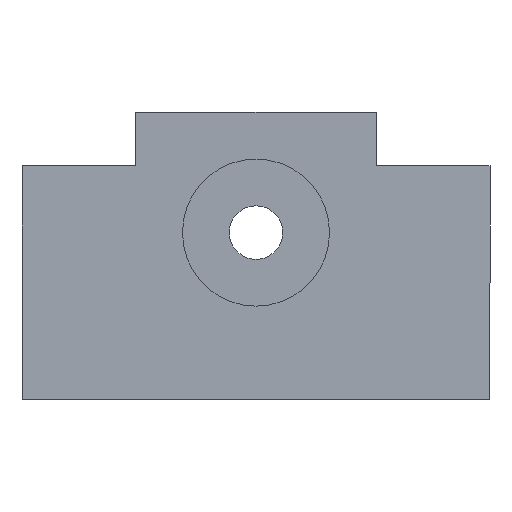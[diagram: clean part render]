
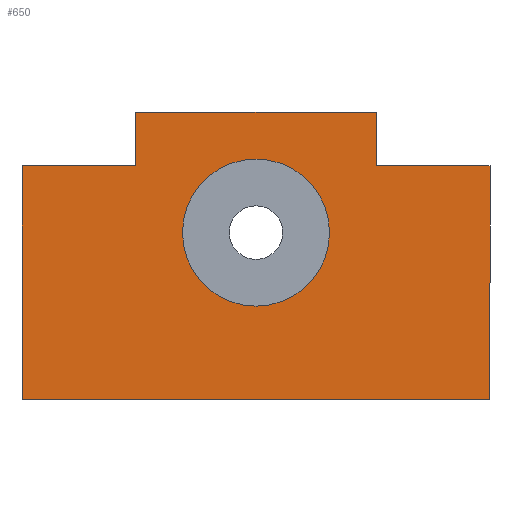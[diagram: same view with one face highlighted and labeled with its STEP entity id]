
A CAD part, left-side view. The second image highlights one B-rep face of the part: STEP entity #650.
In plain terms, the highlighted planar face has unit normal (-1, 0, 0).
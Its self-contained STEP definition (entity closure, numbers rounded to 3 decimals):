
#360=CARTESIAN_POINT('',(0.0,11.0,0.));
#361=VERTEX_POINT('',#360);
#362=CARTESIAN_POINT('',(0.0,0.0,0.0));
#363=DIRECTION('',(1.0,0.0,0.0));
#364=DIRECTION('',(0.0,-1.0,0.0));
#365=AXIS2_PLACEMENT_3D('',#362,#363,#364);
#366=CIRCLE('',#365,11.0);
#367=EDGE_CURVE('',#361,#361,#366,.T.);
#387=CARTESIAN_POINT('',(0.0,-35.0,10.));
#388=VERTEX_POINT('',#387);
#395=CARTESIAN_POINT('',(0.0,-35.,-25.));
#396=VERTEX_POINT('',#395);
#397=CARTESIAN_POINT('',(0.0,-35.0,10.));
#398=DIRECTION('',(0.0,0.0,-1.0));
#399=VECTOR('',#398,35.0);
#400=LINE('',#397,#399);
#401=EDGE_CURVE('',#388,#396,#400,.T.);
#425=CARTESIAN_POINT('',(0.0,-18.,10.));
#426=VERTEX_POINT('',#425);
#433=CARTESIAN_POINT('',(0.0,-18.,10.));
#434=DIRECTION('',(0.0,-1.0,0.0));
#435=VECTOR('',#434,17.);
#436=LINE('',#433,#435);
#437=EDGE_CURVE('',#426,#388,#436,.T.);
#459=CARTESIAN_POINT('',(0.0,-18.,18.));
#460=VERTEX_POINT('',#459);
#467=CARTESIAN_POINT('',(0.0,-18.,18.));
#468=DIRECTION('',(0.0,0.0,-1.0));
#469=VECTOR('',#468,8.);
#470=LINE('',#467,#469);
#471=EDGE_CURVE('',#460,#426,#470,.T.);
#490=CARTESIAN_POINT('',(0.0,18.,18.));
#491=VERTEX_POINT('',#490);
#498=CARTESIAN_POINT('',(0.0,18.,18.));
#499=DIRECTION('',(0.0,-1.0,0.0));
#500=VECTOR('',#499,36.);
#501=LINE('',#498,#500);
#502=EDGE_CURVE('',#491,#460,#501,.T.);
#521=CARTESIAN_POINT('',(0.0,18.,10.));
#522=VERTEX_POINT('',#521);
#529=CARTESIAN_POINT('',(0.0,18.,10.));
#530=DIRECTION('',(0.0,0.0,1.0));
#531=VECTOR('',#530,8.);
#532=LINE('',#529,#531);
#533=EDGE_CURVE('',#522,#491,#532,.T.);
#552=CARTESIAN_POINT('',(0.0,35.0,10.));
#553=VERTEX_POINT('',#552);
#560=CARTESIAN_POINT('',(0.0,35.0,10.));
#561=DIRECTION('',(0.0,-1.0,0.0));
#562=VECTOR('',#561,17.);
#563=LINE('',#560,#562);
#564=EDGE_CURVE('',#553,#522,#563,.T.);
#586=CARTESIAN_POINT('',(0.0,35.,-25.));
#587=VERTEX_POINT('',#586);
#594=CARTESIAN_POINT('',(0.0,35.,-25.));
#595=DIRECTION('',(0.0,0.0,1.0));
#596=VECTOR('',#595,35.0);
#597=LINE('',#594,#596);
#598=EDGE_CURVE('',#587,#553,#597,.T.);
#616=CARTESIAN_POINT('',(0.0,-35.,-25.));
#617=DIRECTION('',(0.0,1.0,0.0));
#618=VECTOR('',#617,70.);
#619=LINE('',#616,#618);
#620=EDGE_CURVE('',#396,#587,#619,.T.);
#632=CARTESIAN_POINT('',(0.0,0.0,-4.704));
#633=DIRECTION('',(1.0,0.0,0.0));
#634=DIRECTION('',(0.0,0.0,-1.0));
#635=AXIS2_PLACEMENT_3D('',#632,#633,#634);
#636=PLANE('',#635);
#637=ORIENTED_EDGE('',*,*,#620,.F.);
#638=ORIENTED_EDGE('',*,*,#401,.F.);
#639=ORIENTED_EDGE('',*,*,#437,.F.);
#640=ORIENTED_EDGE('',*,*,#471,.F.);
#641=ORIENTED_EDGE('',*,*,#502,.F.);
#642=ORIENTED_EDGE('',*,*,#533,.F.);
#643=ORIENTED_EDGE('',*,*,#564,.F.);
#644=ORIENTED_EDGE('',*,*,#598,.F.);
#645=EDGE_LOOP('',(#637,#638,#639,#640,#641,#642,#643,#644));
#646=FACE_OUTER_BOUND('',#645,.T.);
#647=ORIENTED_EDGE('',*,*,#367,.T.);
#648=EDGE_LOOP('',(#647));
#649=FACE_BOUND('',#648,.T.);
#650=ADVANCED_FACE('',(#646,#649),#636,.F.);
